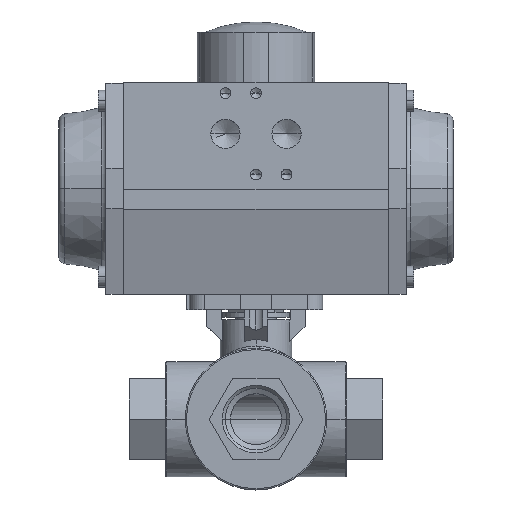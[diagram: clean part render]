
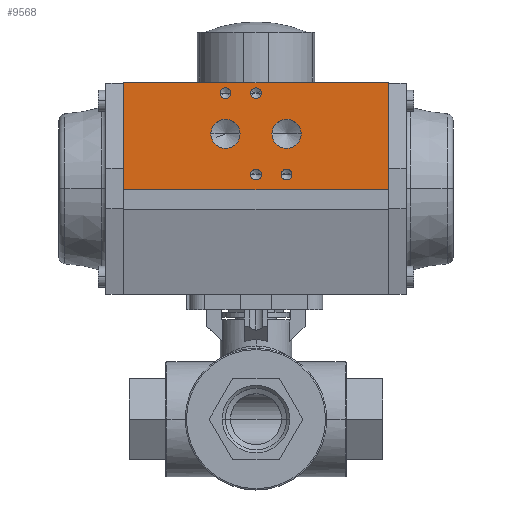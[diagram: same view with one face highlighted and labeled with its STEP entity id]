
A CAD part, top view. The second image highlights one B-rep face of the part: STEP entity #9568.
In plain terms, the highlighted planar face has unit normal (0, 0, 1) as drawn and (1, 0, 0) by its records, which use the part's own axes.
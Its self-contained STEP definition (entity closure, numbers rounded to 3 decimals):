
#28 = CARTESIAN_POINT ( 'NONE',  ( 42.5, 37.5, 9.9 ) ) ;
#79 = CIRCLE ( 'NONE', #9255, 5.722 ) ;
#154 = ORIENTED_EDGE ( 'NONE', *, *, #3167, .F. ) ;
#238 = EDGE_CURVE ( 'NONE', #6201, #9083, #9634, .T. ) ;
#347 = CIRCLE ( 'NONE', #8487, 5.722 ) ;
#555 = EDGE_CURVE ( 'NONE', #6026, #7757, #8387, .T. ) ;
#622 = CIRCLE ( 'NONE', #15453, 2.1 ) ;
#625 = CARTESIAN_POINT ( 'NONE',  ( 42.5, 37.5, 12. ) ) ;
#1002 = CARTESIAN_POINT ( 'NONE',  ( 42.5, 5.5, -14.1 ) ) ;
#1127 = EDGE_CURVE ( 'NONE', #10472, #8511, #12024, .T. ) ;
#1163 = CARTESIAN_POINT ( 'NONE',  ( 42.5, 41.5, -52. ) ) ;
#1176 = DIRECTION ( 'NONE',  ( 0., 0., -1. ) ) ;
#1190 = ORIENTED_EDGE ( 'NONE', *, *, #16696, .F. ) ;
#1304 = EDGE_CURVE ( 'NONE', #6208, #9253, #622, .T. ) ;
#1566 = CARTESIAN_POINT ( 'NONE',  ( 42.5, 5.5, 0. ) ) ;
#1570 = DIRECTION ( 'NONE',  ( 0., 0., -1. ) ) ;
#1748 = CARTESIAN_POINT ( 'NONE',  ( 42.5, 37.5, -2.1 ) ) ;
#1914 = CIRCLE ( 'NONE', #9821, 2.1 ) ;
#2273 = CIRCLE ( 'NONE', #14419, 2.1 ) ;
#2319 = EDGE_LOOP ( 'NONE', ( #154, #4391 ) ) ;
#2371 = EDGE_LOOP ( 'NONE', ( #7038, #1190 ) ) ;
#2392 = CARTESIAN_POINT ( 'NONE',  ( 42.5, 37.5, 0. ) ) ;
#2633 = CARTESIAN_POINT ( 'NONE',  ( 42.5, 37.5, 0. ) ) ;
#2676 = EDGE_LOOP ( 'NONE', ( #14050, #15387 ) ) ;
#2869 = CARTESIAN_POINT ( 'NONE',  ( 42.5, -0.5, 52. ) ) ;
#3065 = PLANE ( 'NONE',  #16927 ) ;
#3105 = EDGE_CURVE ( 'NONE', #11743, #7842, #5182, .T. ) ;
#3167 = EDGE_CURVE ( 'NONE', #7757, #6026, #79, .T. ) ;
#3513 = ORIENTED_EDGE ( 'NONE', *, *, #8244, .T. ) ;
#3708 = ORIENTED_EDGE ( 'NONE', *, *, #238, .F. ) ;
#3781 = ORIENTED_EDGE ( 'NONE', *, *, #11723, .F. ) ;
#3879 = EDGE_CURVE ( 'NONE', #8511, #10472, #1914, .T. ) ;
#3888 = CARTESIAN_POINT ( 'NONE',  ( 42.5, 5.5, 2.1 ) ) ;
#4182 = EDGE_CURVE ( 'NONE', #13214, #5864, #4562, .T. ) ;
#4391 = ORIENTED_EDGE ( 'NONE', *, *, #555, .F. ) ;
#4416 = VERTEX_POINT ( 'NONE', #16227 ) ;
#4441 = DIRECTION ( 'NONE',  ( 1., 0., 0. ) ) ;
#4451 = DIRECTION ( 'NONE',  ( 0., 0., -1. ) ) ;
#4562 = CIRCLE ( 'NONE', #4576, 5.722 ) ;
#4576 = AXIS2_PLACEMENT_3D ( 'NONE', #14347, #6529, #7556 ) ;
#4615 = CARTESIAN_POINT ( 'NONE',  ( 42.5, -0.5, -52. ) ) ;
#4893 = FACE_BOUND ( 'NONE', #12903, .T. ) ;
#4935 = DIRECTION ( 'NONE',  ( 1., 0., 0. ) ) ;
#5029 = EDGE_LOOP ( 'NONE', ( #12319, #3781, #5227, #3513 ) ) ;
#5065 = CARTESIAN_POINT ( 'NONE',  ( 42.5, 21.5, -6.277 ) ) ;
#5091 = DIRECTION ( 'NONE',  ( 0., 0., 1. ) ) ;
#5182 = LINE ( 'NONE', #4615, #7424 ) ;
#5200 = VERTEX_POINT ( 'NONE', #11312 ) ;
#5227 = ORIENTED_EDGE ( 'NONE', *, *, #3105, .F. ) ;
#5268 = DIRECTION ( 'NONE',  ( 0., 0., -1. ) ) ;
#5514 = AXIS2_PLACEMENT_3D ( 'NONE', #8854, #4935, #5268 ) ;
#5587 = EDGE_CURVE ( 'NONE', #6442, #4416, #5652, .T. ) ;
#5617 = CARTESIAN_POINT ( 'NONE',  ( 42.5, -0.5, 52. ) ) ;
#5652 = CIRCLE ( 'NONE', #14982, 2.1 ) ;
#5663 = DIRECTION ( 'NONE',  ( 0., 0., -1. ) ) ;
#5667 = EDGE_LOOP ( 'NONE', ( #3708, #13107 ) ) ;
#5704 = FACE_BOUND ( 'NONE', #2676, .T. ) ;
#5795 = DIRECTION ( 'NONE',  ( 0., 1., 0. ) ) ;
#5864 = VERTEX_POINT ( 'NONE', #7363 ) ;
#5868 = CARTESIAN_POINT ( 'NONE',  ( 42.5, 21.5, -12. ) ) ;
#6026 = VERTEX_POINT ( 'NONE', #5065 ) ;
#6136 = LINE ( 'NONE', #1163, #16132 ) ;
#6201 = VERTEX_POINT ( 'NONE', #1748 ) ;
#6208 = VERTEX_POINT ( 'NONE', #15938 ) ;
#6301 = CARTESIAN_POINT ( 'NONE',  ( 42.5, 5.5, -12. ) ) ;
#6374 = DIRECTION ( 'NONE',  ( 1., 0., 0. ) ) ;
#6442 = VERTEX_POINT ( 'NONE', #3888 ) ;
#6529 = DIRECTION ( 'NONE',  ( 1., 0., 0. ) ) ;
#6752 = CARTESIAN_POINT ( 'NONE',  ( 42.5, 5.5, -12. ) ) ;
#6761 = CARTESIAN_POINT ( 'NONE',  ( 42.5, -0.5, -52. ) ) ;
#7038 = ORIENTED_EDGE ( 'NONE', *, *, #4182, .F. ) ;
#7053 = CARTESIAN_POINT ( 'NONE',  ( 42.5, -0.5, -52. ) ) ;
#7284 = DIRECTION ( 'NONE',  ( 0., 0., 1. ) ) ;
#7363 = CARTESIAN_POINT ( 'NONE',  ( 42.5, 21.5, 17.722 ) ) ;
#7424 = VECTOR ( 'NONE', #7284, 1000. ) ;
#7556 = DIRECTION ( 'NONE',  ( 0., 0., -1. ) ) ;
#7656 = ORIENTED_EDGE ( 'NONE', *, *, #8956, .F. ) ;
#7664 = CARTESIAN_POINT ( 'NONE',  ( 42.5, 21.5, -17.722 ) ) ;
#7757 = VERTEX_POINT ( 'NONE', #7664 ) ;
#7818 = CARTESIAN_POINT ( 'NONE',  ( 42.5, 5.5, 0. ) ) ;
#7842 = VERTEX_POINT ( 'NONE', #2869 ) ;
#7929 = LINE ( 'NONE', #5617, #14478 ) ;
#8054 = DIRECTION ( 'NONE',  ( 1., 0., 0. ) ) ;
#8244 = EDGE_CURVE ( 'NONE', #11743, #5200, #14751, .T. ) ;
#8350 = FACE_BOUND ( 'NONE', #2371, .T. ) ;
#8387 = CIRCLE ( 'NONE', #12469, 5.722 ) ;
#8487 = AXIS2_PLACEMENT_3D ( 'NONE', #9936, #8555, #9875 ) ;
#8511 = VERTEX_POINT ( 'NONE', #28 ) ;
#8555 = DIRECTION ( 'NONE',  ( 1., 0., 0. ) ) ;
#8854 = CARTESIAN_POINT ( 'NONE',  ( 42.5, 37.5, 12. ) ) ;
#8956 = EDGE_CURVE ( 'NONE', #4416, #6442, #13909, .T. ) ;
#8960 = DIRECTION ( 'NONE',  ( 1., 0., 0. ) ) ;
#9083 = VERTEX_POINT ( 'NONE', #9299 ) ;
#9253 = VERTEX_POINT ( 'NONE', #1002 ) ;
#9255 = AXIS2_PLACEMENT_3D ( 'NONE', #15102, #9626, #4451 ) ;
#9299 = CARTESIAN_POINT ( 'NONE',  ( 42.5, 37.5, 2.1 ) ) ;
#9524 = DIRECTION ( 'NONE',  ( 1., 0., 0. ) ) ;
#9542 = EDGE_LOOP ( 'NONE', ( #16026, #11311 ) ) ;
#9568 = ADVANCED_FACE ( 'NONE', ( #15287, #5704, #4893, #11816, #12226, #8350, #14886 ), #3065, .T. ) ;
#9626 = DIRECTION ( 'NONE',  ( 1., 0., 0. ) ) ;
#9634 = CIRCLE ( 'NONE', #13341, 2.1 ) ;
#9742 = DIRECTION ( 'NONE',  ( 0., 0., -1. ) ) ;
#9759 = CIRCLE ( 'NONE', #10345, 2.1 ) ;
#9821 = AXIS2_PLACEMENT_3D ( 'NONE', #625, #4441, #9742 ) ;
#9875 = DIRECTION ( 'NONE',  ( 0., 0., -1. ) ) ;
#9936 = CARTESIAN_POINT ( 'NONE',  ( 42.5, 21.5, 12. ) ) ;
#10025 = AXIS2_PLACEMENT_3D ( 'NONE', #7818, #8960, #1176 ) ;
#10345 = AXIS2_PLACEMENT_3D ( 'NONE', #6301, #16516, #14112 ) ;
#10472 = VERTEX_POINT ( 'NONE', #11135 ) ;
#10686 = DIRECTION ( 'NONE',  ( 0., 1., 0. ) ) ;
#10723 = EDGE_CURVE ( 'NONE', #9083, #6201, #2273, .T. ) ;
#10823 = DIRECTION ( 'NONE',  ( 0., 0., -1. ) ) ;
#11135 = CARTESIAN_POINT ( 'NONE',  ( 42.5, 37.5, 14.1 ) ) ;
#11311 = ORIENTED_EDGE ( 'NONE', *, *, #1127, .F. ) ;
#11312 = CARTESIAN_POINT ( 'NONE',  ( 42.5, 41.5, -52. ) ) ;
#11723 = EDGE_CURVE ( 'NONE', #7842, #16613, #7929, .T. ) ;
#11743 = VERTEX_POINT ( 'NONE', #6761 ) ;
#11816 = FACE_BOUND ( 'NONE', #5667, .T. ) ;
#12024 = CIRCLE ( 'NONE', #5514, 2.1 ) ;
#12057 = DIRECTION ( 'NONE',  ( 1., 0., 0. ) ) ;
#12081 = DIRECTION ( 'NONE',  ( 1., 0., 0. ) ) ;
#12185 = CARTESIAN_POINT ( 'NONE',  ( 42.5, -0.5, -52. ) ) ;
#12226 = FACE_BOUND ( 'NONE', #2319, .T. ) ;
#12319 = ORIENTED_EDGE ( 'NONE', *, *, #14709, .T. ) ;
#12465 = CARTESIAN_POINT ( 'NONE',  ( 42.5, 21.5, 6.277 ) ) ;
#12469 = AXIS2_PLACEMENT_3D ( 'NONE', #5868, #9524, #10823 ) ;
#12903 = EDGE_LOOP ( 'NONE', ( #7656, #14031 ) ) ;
#13107 = ORIENTED_EDGE ( 'NONE', *, *, #10723, .F. ) ;
#13214 = VERTEX_POINT ( 'NONE', #12465 ) ;
#13341 = AXIS2_PLACEMENT_3D ( 'NONE', #2392, #6374, #16820 ) ;
#13525 = VECTOR ( 'NONE', #5795, 1000. ) ;
#13909 = CIRCLE ( 'NONE', #10025, 2.1 ) ;
#14031 = ORIENTED_EDGE ( 'NONE', *, *, #5587, .F. ) ;
#14050 = ORIENTED_EDGE ( 'NONE', *, *, #16135, .F. ) ;
#14112 = DIRECTION ( 'NONE',  ( 0., 0., -1. ) ) ;
#14347 = CARTESIAN_POINT ( 'NONE',  ( 42.5, 21.5, 12. ) ) ;
#14419 = AXIS2_PLACEMENT_3D ( 'NONE', #2633, #16790, #15561 ) ;
#14478 = VECTOR ( 'NONE', #10686, 1000. ) ;
#14709 = EDGE_CURVE ( 'NONE', #5200, #16613, #6136, .T. ) ;
#14711 = DIRECTION ( 'NONE',  ( 0., 1., 0. ) ) ;
#14751 = LINE ( 'NONE', #7053, #13525 ) ;
#14886 = FACE_OUTER_BOUND ( 'NONE', #5029, .T. ) ;
#14982 = AXIS2_PLACEMENT_3D ( 'NONE', #1566, #12081, #5663 ) ;
#14999 = CARTESIAN_POINT ( 'NONE',  ( 42.5, 41.5, 52. ) ) ;
#15102 = CARTESIAN_POINT ( 'NONE',  ( 42.5, 21.5, -12. ) ) ;
#15287 = FACE_BOUND ( 'NONE', #9542, .T. ) ;
#15387 = ORIENTED_EDGE ( 'NONE', *, *, #1304, .F. ) ;
#15453 = AXIS2_PLACEMENT_3D ( 'NONE', #6752, #8054, #1570 ) ;
#15561 = DIRECTION ( 'NONE',  ( 0., 0., -1. ) ) ;
#15938 = CARTESIAN_POINT ( 'NONE',  ( 42.5, 5.5, -9.9 ) ) ;
#16026 = ORIENTED_EDGE ( 'NONE', *, *, #3879, .F. ) ;
#16132 = VECTOR ( 'NONE', #5091, 1000. ) ;
#16135 = EDGE_CURVE ( 'NONE', #9253, #6208, #9759, .T. ) ;
#16227 = CARTESIAN_POINT ( 'NONE',  ( 42.5, 5.5, -2.1 ) ) ;
#16516 = DIRECTION ( 'NONE',  ( 1., 0., 0. ) ) ;
#16613 = VERTEX_POINT ( 'NONE', #14999 ) ;
#16696 = EDGE_CURVE ( 'NONE', #5864, #13214, #347, .T. ) ;
#16790 = DIRECTION ( 'NONE',  ( 1., 0., 0. ) ) ;
#16820 = DIRECTION ( 'NONE',  ( 0., 0., -1. ) ) ;
#16927 = AXIS2_PLACEMENT_3D ( 'NONE', #12185, #12057, #14711 ) ;
